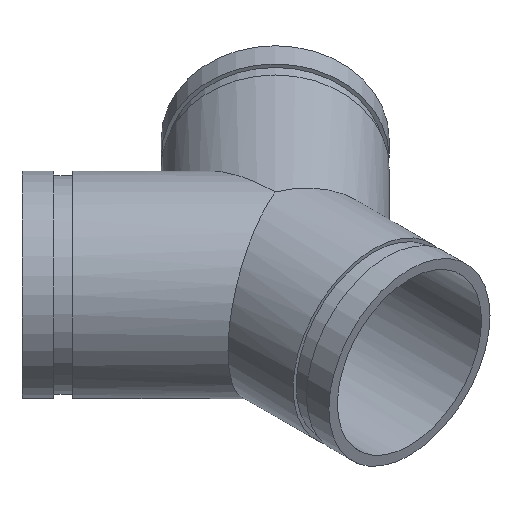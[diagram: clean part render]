
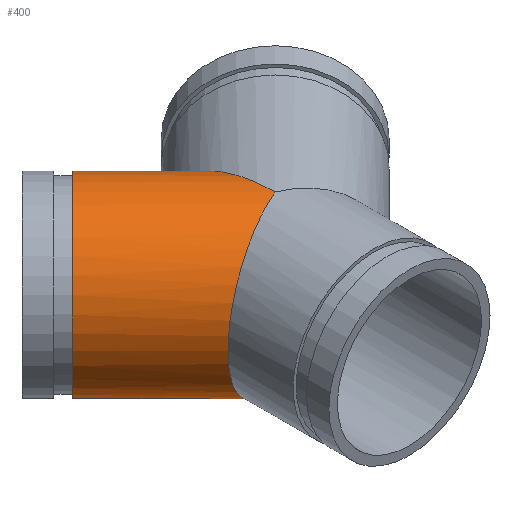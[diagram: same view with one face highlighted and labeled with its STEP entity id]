
A CAD part, isometric view. The second image highlights one B-rep face of the part: STEP entity #400.
In plain terms, the highlighted cylindrical face has radius 57.15 mm (diameter 114.3 mm), a full revolution.
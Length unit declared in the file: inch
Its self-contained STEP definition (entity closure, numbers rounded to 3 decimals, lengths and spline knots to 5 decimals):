
#76=FACE_OUTER_BOUND('',#103,.T.);
#103=EDGE_LOOP('',(#314,#315,#316,#317,#318,#319,#320,#321));
#118=ELLIPSE('',#470,3.18198,2.25);
#119=ELLIPSE('',#471,2.43538,2.25);
#120=ELLIPSE('',#472,2.43538,2.25);
#121=ELLIPSE('',#473,3.18198,2.25);
#131=LINE('',#735,#143);
#143=VECTOR('',#595,2.25);
#156=CIRCLE('',#446,2.25);
#157=CIRCLE('',#447,2.25);
#186=VERTEX_POINT('',#686);
#187=VERTEX_POINT('',#687);
#202=VERTEX_POINT('',#730);
#203=VERTEX_POINT('',#731);
#204=VERTEX_POINT('',#733);
#205=VERTEX_POINT('',#736);
#223=EDGE_CURVE('',#186,#187,#156,.T.);
#224=EDGE_CURVE('',#187,#186,#157,.T.);
#243=EDGE_CURVE('',#202,#203,#118,.T.);
#244=EDGE_CURVE('',#204,#202,#119,.T.);
#245=EDGE_CURVE('',#204,#187,#131,.T.);
#246=EDGE_CURVE('',#205,#204,#120,.T.);
#247=EDGE_CURVE('',#203,#205,#121,.T.);
#314=ORIENTED_EDGE('',*,*,#243,.F.);
#315=ORIENTED_EDGE('',*,*,#244,.F.);
#316=ORIENTED_EDGE('',*,*,#245,.T.);
#317=ORIENTED_EDGE('',*,*,#224,.T.);
#318=ORIENTED_EDGE('',*,*,#223,.T.);
#319=ORIENTED_EDGE('',*,*,#245,.F.);
#320=ORIENTED_EDGE('',*,*,#246,.F.);
#321=ORIENTED_EDGE('',*,*,#247,.F.);
#359=CYLINDRICAL_SURFACE('',#469,2.25);
#400=ADVANCED_FACE('',(#76),#359,.T.);
#446=AXIS2_PLACEMENT_3D('',#688,#539,#540);
#447=AXIS2_PLACEMENT_3D('',#689,#541,#542);
#469=AXIS2_PLACEMENT_3D('',#729,#589,#590);
#470=AXIS2_PLACEMENT_3D('',#732,#591,#592);
#471=AXIS2_PLACEMENT_3D('',#734,#593,#594);
#472=AXIS2_PLACEMENT_3D('',#737,#596,#597);
#473=AXIS2_PLACEMENT_3D('',#738,#598,#599);
#539=DIRECTION('center_axis',(0.707,-0.707,0.));
#540=DIRECTION('ref_axis',(0.707,0.707,0.));
#541=DIRECTION('center_axis',(0.707,-0.707,0.));
#542=DIRECTION('ref_axis',(0.707,0.707,0.));
#589=DIRECTION('center_axis',(0.707,-0.707,0.));
#590=DIRECTION('ref_axis',(0.707,0.707,0.));
#591=DIRECTION('center_axis',(1.,0.,0.));
#592=DIRECTION('ref_axis',(0.,1.,0.));
#593=DIRECTION('center_axis',(0.383,-0.924,0.));
#594=DIRECTION('ref_axis',(0.924,0.383,0.));
#595=DIRECTION('',(-0.707,0.707,0.));
#596=DIRECTION('center_axis',(0.383,-0.924,0.));
#597=DIRECTION('ref_axis',(0.924,0.383,0.));
#598=DIRECTION('center_axis',(1.,0.,0.));
#599=DIRECTION('ref_axis',(0.,1.,0.));
#686=CARTESIAN_POINT('',(-1.23744,4.41942,0.));
#687=CARTESIAN_POINT('',(-4.41942,1.23744,0.));
#688=CARTESIAN_POINT('Origin',(-2.82843,2.82843,0.));
#689=CARTESIAN_POINT('Origin',(-2.82843,2.82843,0.));
#729=CARTESIAN_POINT('Origin',(-3.53553,3.53553,0.));
#730=CARTESIAN_POINT('',(0.,0.,-2.25));
#731=CARTESIAN_POINT('',(0.,3.18198,0.));
#732=CARTESIAN_POINT('Origin',(0.,0.,
0.));
#733=CARTESIAN_POINT('',(-2.25,-0.93198,0.));
#734=CARTESIAN_POINT('Origin',(0.,0.,0.));
#735=CARTESIAN_POINT('',(-5.12652,1.94454,0.));
#736=CARTESIAN_POINT('',(0.,0.,2.25));
#737=CARTESIAN_POINT('Origin',(0.,0.,0.));
#738=CARTESIAN_POINT('Origin',(0.,0.,
0.));
